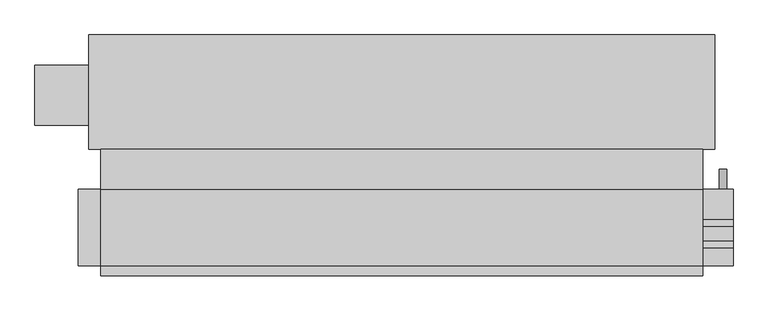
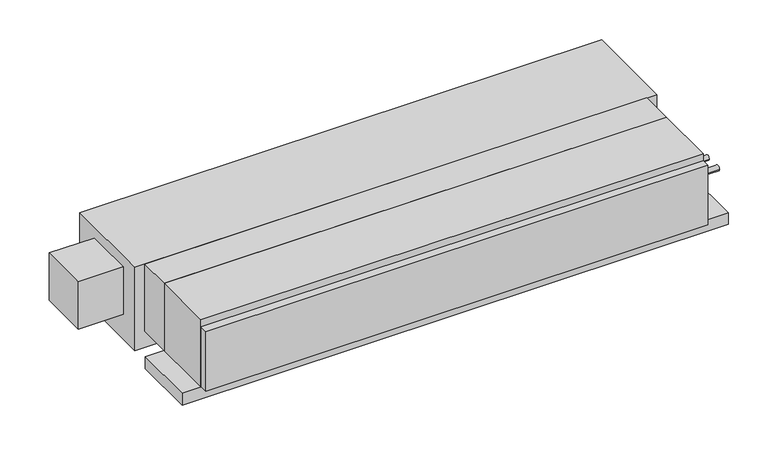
"""IFC4 building model written with IfcOpenShell, lengths in millimetres: proxy geometry, Concealed_Horizontal_Fan_Coil_Unit_With_Plenum_-_42CEA_-_CARRIER_-_2-Pipe_Cool-EHeat_RH_2022 : Size 12 - 277v/60Hz/1Ph - 4 Row 10.0kW."""

from ifc_helpers import new_model, si_unit, point, frame, frame_2d, origin, place, context, project, spatial, polyline, circle_curve, trimmed, segment, composite_curve, outline, extrude, source, transform, mapped, element, save


def mechanical_equipment_81d391ec(model_context):
    return source(origin(), model_context, "Body", "SweptSolid", [
        extrude(outline(composite_curve([segment(trimmed(circle_curve(frame_2d((-280.9875, -104.775)), 7.9375), [point((-273.05, -104.775))], [point((-288.925, -104.775))], False, "CARTESIAN"), True, "CONTINUOUS"), segment(trimmed(circle_curve(frame_2d((-280.9875, -104.775)), 7.9375), [point((-288.925, -104.775))], [point((-273.05, -104.775))], False, "CARTESIAN"), True, "CONTINUOUS")], self_intersect=False)), frame((914.4, 0.0, 0.0), z_axis=(1.0, 0.0, 0.0), x_axis=(0.0, 1.0, 0.0)), (0.0, 0.0, 1.0), 76.2),
        extrude(outline(composite_curve([segment(trimmed(circle_curve(frame_2d((-227.0125, -104.775)), 7.9375), [point((-219.075, -104.775))], [point((-234.95, -104.775))], False, "CARTESIAN"), True, "CONTINUOUS"), segment(trimmed(circle_curve(frame_2d((-227.0125, -104.775)), 7.9375), [point((-234.95, -104.775))], [point((-219.075, -104.775))], False, "CARTESIAN"), True, "CONTINUOUS")], self_intersect=False)), frame((914.4, 0.0, 0.0), z_axis=(1.0, 0.0, 0.0), x_axis=(0.0, 1.0, 0.0)), (0.0, 0.0, 1.0), 76.2),
        extrude(outline(composite_curve([segment(trimmed(circle_curve(frame_2d((-241.3, 965.2)), 9.525), [point((-241.3, 955.675))], [point((-241.3, 974.725))], False, "CARTESIAN"), True, "CONTINUOUS"), segment(trimmed(circle_curve(frame_2d((-241.3, 965.2)), 9.525), [point((-241.3, 974.725))], [point((-241.3, 955.675))], False, "CARTESIAN"), True, "CONTINUOUS")], self_intersect=False)), frame((0.0, -141.2875, 0.0), z_axis=(0.0, 1.0, 0.0), x_axis=(0.0, 0.0, 1.0)), (0.0, 0.0, 1.0), 50.8),
        extrude(outline(polyline([(-609.6, -39.6875), (914.4, -39.6875), (914.4, -141.2875), (-609.6, -141.2875), (-609.6, -39.6875)])), frame((0.0, 0.0, -215.9), z_axis=(0.0, 0.0, 1.0), x_axis=(1.0, 0.0, 0.0)), (0.0, 0.0, 1.0), 215.9),
        extrude(outline(polyline([(914.4, -360.3625), (-609.6, -360.3625), (-609.6, -334.9625), (914.4, -334.9625), (914.4, -360.3625)])), frame((0.0, 0.0, -212.725), z_axis=(0.0, 0.0, 1.0), x_axis=(1.0, 0.0, 0.0)), (0.0, 0.0, 1.0), 190.5),
        extrude(outline(polyline([(-776.2875, 20.6375), (-776.2875, 173.0375), (-639.7625, 173.0375), (-639.7625, 20.6375), (-776.2875, 20.6375)])), frame((0.0, 0.0, -187.325), z_axis=(0.0, 0.0, 1.0), x_axis=(1.0, 0.0, 0.0)), (0.0, 0.0, 1.0), 152.4),
        extrude(outline(polyline([(-639.7625, 249.2375), (944.5625, 249.2375), (944.5625, -39.6875), (-639.7625, -39.6875), (-639.7625, 249.2375)])), frame((0.0, 0.0, -266.7), z_axis=(0.0, 0.0, 1.0), x_axis=(1.0, 0.0, 0.0)), (0.0, 0.0, 1.0), 266.7),
        extrude(outline(polyline([(914.4, -141.2875), (914.4, -334.9625), (-609.6, -334.9625), (-609.6, -141.2875), (914.4, -141.2875)])), frame((0.0, 0.0, -215.9), z_axis=(0.0, 0.0, 1.0), x_axis=(1.0, 0.0, 0.0)), (0.0, 0.0, 1.0), 215.9),
        extrude(outline(polyline([(990.6, -141.2875), (990.6, -334.9625), (-666.75, -334.9625), (-666.75, -141.2875), (990.6, -141.2875)])), frame((0.0, 0.0, -254.0), z_axis=(0.0, 0.0, 1.0), x_axis=(1.0, 0.0, 0.0)), (0.0, 0.0, 1.0), 38.1),
    ])


if __name__ == "__main__":
    model = new_model("IFC4")
    model_context = context("Model", 3, world=origin())
    ifc_project = project(units=[si_unit("LENGTHUNIT", "METRE", prefix="MILLI")], contexts=[model_context])
    site = spatial("IfcSite", under=ifc_project)
    building = spatial("IfcBuilding", under=site)
    placement = place(None, origin())
    mechanical_equipment_shape = mechanical_equipment_81d391ec(model_context)
    element("IfcBuildingElementProxy", 1, Name="Concealed_Horizontal_Fan_Coil_Unit_With_Plenum_-_42CEA_-_CARRIER_-_2-Pipe_Cool-EHeat_RH_2022 : Size 12 - 277v/60Hz/1Ph - 4 Row 10.0kW", ObjectType="Concealed_Horizontal_Fan_Coil_Unit_With_Plenum_-_42CEA_-_CARRIER_-_2-Pipe_Cool-EHeat_RH_2022 : Size 12 - 277v/60Hz/1Ph - 4 Row 10.0kW", at=placement, inside=building, context=model_context, shape_type="MappedRepresentation", body=[
        mapped(mechanical_equipment_shape, transform((0.0, 0.0, 0.0), x_axis=(1.0, 0.0, 0.0), y_axis=(0.0, 1.0, 0.0), z_axis=(0.0, 0.0, 1.0))),
    ])
    save(model, "model.ifc")
